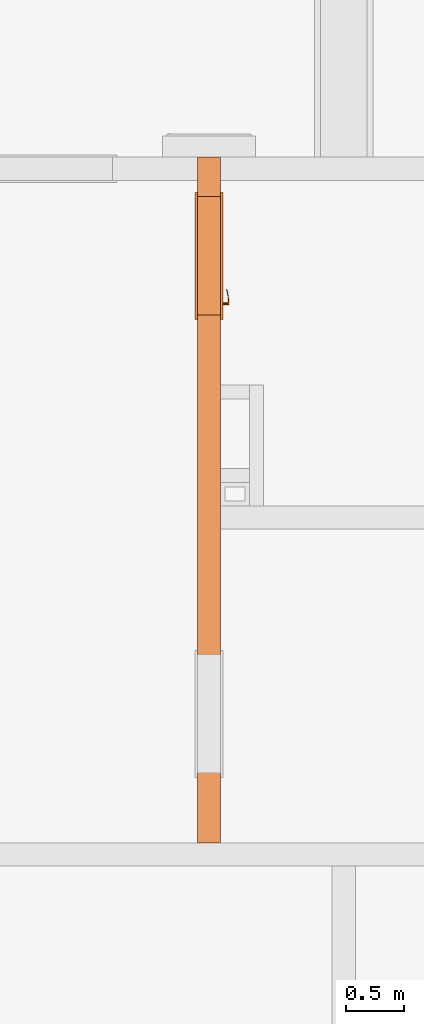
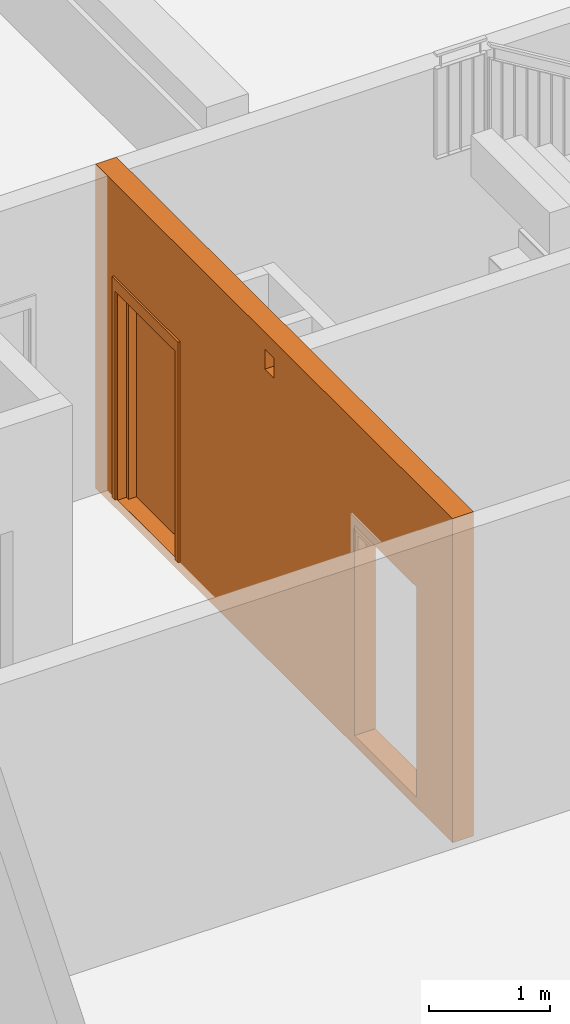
# One storey, part 17 of 25: 2 proxies, 3 openings.
"""IFC2X3 building model written with IfcOpenShell, lengths in millimetres."""

from ifc_helpers import new_model, entity, si_unit, converted_unit, derived_unit, money_unit, direction, frame, origin_with_axes, origin_2d_with_axis, place, context, subcontext, project, spatial, rectangle, extrude, open_shell, faceted_brep, surface_model, source, transform, mapped, material, type_object, element, fill, save


model = new_model("IFC2X3")

# Units and contexts
model_context = context("Model", 3, precision=0.01, world=origin_with_axes(), true_north=direction((0.34421633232, 0.938890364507)))
body_context = subcontext(model_context, "Body", "Model", "MODEL_VIEW")
ifc_project = project(units=[si_unit("LENGTHUNIT", "METRE", prefix="MILLI"), si_unit("AREAUNIT", "SQUARE_METRE"), si_unit("VOLUMEUNIT", "CUBIC_METRE"), converted_unit("PLANEANGLEUNIT", "DEGREE", entity("IfcPlaneAngleMeasure", 0.0174532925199), si_unit("PLANEANGLEUNIT", "RADIAN"), dimensions=[0, 0, 0, 0, 0, 0, 0]), si_unit("SOLIDANGLEUNIT", "STERADIAN"), money_unit("USD"), converted_unit("TIMEUNIT", "Year", entity("IfcTimeMeasure", 31556926.0), si_unit("TIMEUNIT", "SECOND"), dimensions=[0, 0, 1, 0, 0, 0, 0]), si_unit("MASSUNIT", "GRAM", prefix="KILO"), si_unit("THERMODYNAMICTEMPERATUREUNIT", "DEGREE_CELSIUS"), si_unit("LUMINOUSINTENSITYUNIT", "LUMEN"), si_unit("ENERGYUNIT", "JOULE", prefix="MEGA"), derived_unit("THERMALCONDUCTANCEUNIT", [(si_unit("POWERUNIT", "WATT"), 1), (si_unit("LENGTHUNIT", "METRE"), -1), (si_unit("THERMODYNAMICTEMPERATUREUNIT", "KELVIN"), -1)]), derived_unit("SPECIFICHEATCAPACITYUNIT", [(si_unit("ENERGYUNIT", "JOULE"), 1), (si_unit("MASSUNIT", "GRAM", prefix="KILO"), -1), (si_unit("THERMODYNAMICTEMPERATUREUNIT", "KELVIN"), -1)]), derived_unit("MASSDENSITYUNIT", [(si_unit("MASSUNIT", "GRAM", prefix="KILO"), 1), (si_unit("VOLUMEUNIT", "CUBIC_METRE"), -1)])], contexts=[model_context])

# Site, building, storey
site_placement = place(None, origin_with_axes())
site = spatial("IfcSite", under=ifc_project, at=site_placement, Name="USTRONIE MORSKIE", CompositionType="ELEMENT")
building_placement = place(site_placement, origin_with_axes())
building = spatial("IfcBuilding", under=site, at=building_placement, Name="Budynek", CompositionType="ELEMENT")
storey_placement = place(building_placement, frame((0.0, 0.0, -3600.0), z_axis=(0.0, 0.0, 1.0), x_axis=(1.0, 0.0, 0.0)))
storey = spatial("IfcBuildingStorey", under=building, at=storey_placement, Name="GARAZ", CompositionType="ELEMENT", Elevation=-3600.0)

# Proxies, openings
ifc_material = material(Name="Beton konstrukcyjny 01")
building_element_proxy_type_1 = type_object("IfcBuildingElementProxyType", Name="Beton konstrukcyjny 01 200", PredefinedType="NOTDEFINED")
proxy_1_placement = place(storey_placement, frame((389657.920919, 726901.199036, -100.0), z_axis=(0.0, 0.0, 1.0), x_axis=(0.0, 1.0, 0.0)))
proxy_1 = element("IfcBuildingElementProxy", 1, at=proxy_1_placement, inside=storey, type_object=building_element_proxy_type_1, material=ifc_material, Name="SW-01", context=body_context, shape_type="Brep", body=[
    faceted_brep([(6000.0, -100.0, 3270.0), (6000.0, 100.0, 3270.0), (100.0, 100.0, 3270.0), (100.0, -100.0, 3270.0), (6000.0, -100.0, 0.0), (6000.0, 100.0, 0.0), (100.0, 100.0, 0.0), (100.0, -100.0, 0.0)], [[[0, 1, 2, 3]], [[1, 0, 4, 5]], [[1, 5, 6, 2]], [[7, 3, 2, 6]], [[4, 0, 3, 7]], [[5, 4, 7, 6]]]),
])
opening_1_placement = place(proxy_1_placement, frame((3125.0, 0.0, 2900.0), z_axis=(0.0, 0.0, 1.0), x_axis=(1.0, 0.0, 0.0)))
element("IfcOpeningElement", 2, at=opening_1_placement, cuts=proxy_1, Name="Wz.04", context=body_context, shape_type="SweptSolid", body=[
    extrude(rectangle(XDim=150.0, YDim=200.0, at=origin_2d_with_axis()), frame((0.0, 100.0, 100.0), z_axis=(0.0, -1.0, 0.0), x_axis=(1.0, 0.0, 0.0)), (0.0, 0.0, -1.0), 200.0),
    extrude(rectangle(XDim=150.0, YDim=200.0, at=origin_2d_with_axis()), frame((0.0, 100.0, 100.0), z_axis=(0.0, 1.0, 0.0), x_axis=(1.0, 0.0, 0.0)), (0.0, 0.0, -1.0), 200.0),
])
opening_2_placement = place(proxy_1_placement, frame((5150.0, 0.0, 100.0), z_axis=(0.0, 0.0, 1.0), x_axis=(1.0, 0.0, 0.0)))
opening_2 = element("IfcOpeningElement", 3, at=opening_2_placement, cuts=proxy_1, Name="Dw03", context=body_context, shape_type="SweptSolid", body=[
    extrude(rectangle(XDim=1020.0, YDim=2120.0, at=origin_2d_with_axis()), frame((0.0, 200.0, 1060.0), z_axis=(0.0, 1.0, 0.0), x_axis=(1.0, 0.0, 0.0)), (0.0, 0.0, -1.0), 600.0),
    extrude(rectangle(XDim=1094.0, YDim=2227.0, at=origin_2d_with_axis()), frame((0.0, 100.0, 1113.5), z_axis=(0.0, 1.0, 0.0), x_axis=(1.0, 0.0, 0.0)), (0.0, 0.0, 1.0), 200.0),
    extrude(rectangle(XDim=1094.0, YDim=2227.0, at=origin_2d_with_axis()), frame((0.0, -100.0, 1113.5), z_axis=(0.0, -1.0, 0.0), x_axis=(1.0, 0.0, 0.0)), (0.0, 0.0, 1.0), 200.0),
])
opening_3_placement = place(proxy_1_placement, frame((1210.0, 0.0, 100.0), z_axis=(0.0, 0.0, 1.0), x_axis=(1.0, 0.0, 0.0)))
element("IfcOpeningElement", 4, at=opening_3_placement, cuts=proxy_1, Name="Dw02", context=body_context, shape_type="SweptSolid", body=[
    extrude(rectangle(XDim=1020.0, YDim=2120.0, at=origin_2d_with_axis()), frame((0.0, -200.0, 1060.0), z_axis=(0.0, 1.0, 0.0), x_axis=(-1.0, 0.0, 0.0)), (0.0, 0.0, 1.0), 600.0),
    extrude(rectangle(XDim=1094.0, YDim=2227.0, at=origin_2d_with_axis()), frame((0.0, -100.0, 1113.5), z_axis=(0.0, 1.0, 0.0), x_axis=(-1.0, 0.0, 0.0)), (0.0, 0.0, -1.0), 200.0),
    extrude(rectangle(XDim=1094.0, YDim=2227.0, at=origin_2d_with_axis()), frame((0.0, 100.0, 1113.5), z_axis=(0.0, -1.0, 0.0), x_axis=(-1.0, 0.0, 0.0)), (0.0, 0.0, -1.0), 200.0),
])
building_element_proxy_type_2 = type_object("IfcBuildingElementProxyType", Name="Drzwi 23", PredefinedType="NOTDEFINED")
shared_shape = source(origin_with_axes(), body_context, "Body", "SurfaceModel", [
    faceted_brep([(510.0, -115.0, 0.0), (510.0, -200.0, 0.0), (485.0, -200.0, 0.0), (485.0, -115.0, 0.0), (510.0, -115.0, 2120.0), (510.0, -200.0, 2120.0), (485.0, -200.0, 2095.0), (485.0, -115.0, 2095.0)], [[[0, 1, 2, 3]], [[4, 5, 1, 0]], [[1, 5, 6, 2]], [[3, 2, 6, 7]], [[0, 3, 7, 4]], [[7, 6, 5, 4]]]),
    faceted_brep([(-510.0, -115.0, 2120.0), (-510.0, -200.0, 2120.0), (-485.0, -200.0, 2095.0), (-485.0, -115.0, 2095.0), (-510.0, -115.0, 0.0), (-510.0, -200.0, 0.0), (-485.0, -200.0, 0.0), (-485.0, -115.0, 0.0)], [[[0, 1, 2, 3]], [[4, 5, 1, 0]], [[1, 5, 6, 2]], [[3, 2, 6, 7]], [[0, 3, 7, 4]], [[7, 6, 5, 4]]]),
    faceted_brep([(485.0, -115.0, 2095.0), (485.0, -200.0, 2095.0), (-485.0, -200.0, 2095.0), (-485.0, -115.0, 2095.0), (510.0, -115.0, 2120.0), (510.0, -200.0, 2120.0), (-510.0, -200.0, 2120.0), (-510.0, -115.0, 2120.0)], [[[0, 1, 2, 3]], [[4, 5, 1, 0]], [[1, 5, 6, 2]], [[3, 2, 6, 7]], [[0, 3, 7, 4]], [[7, 6, 5, 4]]]),
    faceted_brep([(547.0, -219.0, 0.0), (497.0, -219.0, 0.0), (497.0, -200.0, 0.0), (547.0, -200.0, 0.0), (547.0, -219.0, 2227.0), (497.0, -219.0, 2107.0), (497.0, -200.0, 2107.0), (547.0, -200.0, 2227.0)], [[[0, 1, 2, 3]], [[0, 4, 5, 1]], [[1, 5, 6, 2]], [[3, 2, 6, 7]], [[4, 0, 3, 7]], [[5, 4, 7, 6]]]),
    faceted_brep([(-547.0, -219.0, 2227.0), (-497.0, -219.0, 2107.0), (-497.0, -200.0, 2107.0), (-547.0, -200.0, 2227.0), (-547.0, -219.0, 0.0), (-497.0, -219.0, 0.0), (-497.0, -200.0, 0.0), (-547.0, -200.0, 0.0)], [[[0, 1, 2, 3]], [[0, 4, 5, 1]], [[1, 5, 6, 2]], [[3, 2, 6, 7]], [[4, 0, 3, 7]], [[5, 4, 7, 6]]]),
    faceted_brep([(547.0, -219.0, 2227.0), (497.0, -219.0, 2107.0), (497.0, -200.0, 2107.0), (547.0, -200.0, 2227.0), (-547.0, -219.0, 2227.0), (-497.0, -219.0, 2107.0), (-497.0, -200.0, 2107.0), (-547.0, -200.0, 2227.0)], [[[0, 1, 2, 3]], [[0, 4, 5, 1]], [[1, 5, 6, 2]], [[3, 2, 6, 7]], [[4, 0, 3, 7]], [[5, 4, 7, 6]]]),
    faceted_brep([(547.0, 19.0, 0.0), (547.0, 0.0, 0.0), (497.0, 0.0, 0.0), (497.0, 19.0, 0.0), (547.0, 19.0, 2227.0), (547.0, 0.0, 2227.0), (497.0, 0.0, 2107.0), (497.0, 19.0, 2107.0)], [[[0, 1, 2, 3]], [[4, 5, 1, 0]], [[1, 5, 6, 2]], [[3, 2, 6, 7]], [[0, 3, 7, 4]], [[7, 6, 5, 4]]]),
    faceted_brep([(-547.0, 19.0, 2227.0), (-547.0, 0.0, 2227.0), (-497.0, 0.0, 2107.0), (-497.0, 19.0, 2107.0), (-547.0, 19.0, 0.0), (-547.0, 0.0, 0.0), (-497.0, 0.0, 0.0), (-497.0, 19.0, 0.0)], [[[0, 1, 2, 3]], [[4, 5, 1, 0]], [[1, 5, 6, 2]], [[3, 2, 6, 7]], [[0, 3, 7, 4]], [[7, 6, 5, 4]]]),
    faceted_brep([(547.0, 19.0, 2227.0), (547.0, 0.0, 2227.0), (497.0, 0.0, 2107.0), (497.0, 19.0, 2107.0), (-547.0, 19.0, 2227.0), (-547.0, 0.0, 2227.0), (-497.0, 0.0, 2107.0), (-497.0, 19.0, 2107.0)], [[[0, 1, 2, 3]], [[4, 5, 1, 0]], [[1, 5, 6, 2]], [[3, 2, 6, 7]], [[0, 3, 7, 4]], [[7, 6, 5, 4]]]),
    faceted_brep([(450.0, -40.0, 0.0), (450.0, -115.0, 0.0), (450.0, -115.0, 2050.0), (450.0, -40.0, 2050.0), (462.0, -40.0, 0.0), (462.0, 0.0, 0.0), (510.0, 0.0, 0.0), (510.0, -115.0, 0.0), (510.0, -115.0, 2050.0), (462.0, -40.0, 2050.0), (510.0, 0.0, 2050.0), (462.0, 0.0, 2050.0)], [[[0, 1, 2, 3]], [[4, 5, 6, 7, 1, 0]], [[1, 7, 8, 2]], [[9, 3, 2, 8, 10, 11]], [[9, 4, 0, 3]], [[11, 5, 4, 9]], [[11, 10, 6, 5]], [[6, 10, 8, 7]]]),
    faceted_brep([(-462.0, -40.0, 2050.0), (-462.0, 0.0, 2050.0), (-510.0, 0.0, 2050.0), (-510.0, -115.0, 2050.0), (-450.0, -115.0, 2050.0), (-450.0, -40.0, 2050.0), (-462.0, -40.0, 0.0), (-462.0, 0.0, 0.0), (-510.0, 0.0, 0.0), (-510.0, -115.0, 0.0), (-450.0, -115.0, 0.0), (-450.0, -40.0, 0.0)], [[[0, 1, 2, 3, 4, 5]], [[0, 6, 7, 1]], [[7, 8, 2, 1]], [[2, 8, 9, 3]], [[3, 9, 10, 4]], [[5, 4, 10, 11]], [[5, 11, 6, 0]], [[6, 11, 10, 9, 8, 7]]]),
    faceted_brep([(462.0, 0.0, 2062.0), (-462.0, 0.0, 2062.0), (-462.0, 0.0, 2050.0), (-510.0, 0.0, 2050.0), (-510.0, 0.0, 2120.0), (510.0, 0.0, 2120.0), (510.0, 0.0, 2050.0), (462.0, 0.0, 2050.0), (462.0, -40.0, 2062.0), (-462.0, -40.0, 2062.0), (-462.0, -40.0, 2050.0), (-450.0, -40.0, 2050.0), (-450.0, -115.0, 2050.0), (-510.0, -115.0, 2050.0), (-510.0, -115.0, 2120.0), (510.0, -115.0, 2120.0), (510.0, -115.0, 2050.0), (462.0, -40.0, 2050.0), (450.0, -115.0, 2050.0), (450.0, -40.0, 2050.0)], [[[0, 1, 2, 3, 4, 5, 6, 7]], [[0, 8, 9, 1]], [[1, 9, 10, 2]], [[10, 11, 12, 13, 3, 2]], [[4, 3, 13, 14]], [[5, 4, 14, 15]], [[6, 5, 15, 16]], [[17, 7, 6, 16, 18, 19]], [[7, 17, 8, 0]], [[10, 9, 8, 17, 19, 11]], [[19, 18, 12, 11]], [[12, 18, 16, 15, 14, 13]]]),
    faceted_brep([(440.5, -40.0, 1060.0), (383.5, -40.0, 1060.0), (383.5, -43.0, 1060.0), (440.5, -43.0, 1060.0), (440.5, -40.0, 870.0), (383.5, -40.0, 870.0), (383.5, -43.0, 870.0), (440.5, -43.0, 870.0)], [[[0, 1, 2, 3]], [[0, 4, 5, 1]], [[1, 5, 6, 2]], [[3, 2, 6, 7]], [[4, 0, 3, 7]], [[5, 4, 7, 6]]]),
    faceted_brep([(412.0, -104.0, 990.0), (417.0, -104.0, 991.339745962), (417.0, -111.0, 991.339745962), (412.0, -111.0, 990.0), (387.0, -104.0, 990.0), (387.0, -104.0, 1010.0), (412.0, -104.0, 1010.0), (417.0, -104.0, 1008.66025404), (420.660254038, -104.0, 1005.0), (422.0, -104.0, 1000.0), (420.660254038, -104.0, 995.0), (420.660254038, -111.0, 995.0), (422.0, -111.0, 1000.0), (420.660254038, -111.0, 1005.0), (417.0, -111.0, 1008.66025404), (412.0, -111.0, 1010.0), (387.0, -111.0, 1010.0), (387.0, -111.0, 990.0)], [[[0, 1, 2, 3]], [[0, 4, 5, 6, 7, 8, 9, 10, 1]], [[1, 10, 11, 2]], [[3, 2, 11, 12, 13, 14, 15, 16, 17]], [[4, 0, 3, 17]], [[5, 4, 17, 16]], [[6, 5, 16, 15]], [[7, 6, 15, 14]], [[8, 7, 14, 13]], [[9, 8, 13, 12]], [[10, 9, 12, 11]]]),
    surface_model("IfcShellBasedSurfaceModel", [(387.0, -104.0, 1010.0), (373.901717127, -104.0, 1009.60730092), (373.596090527, -111.0, 1009.60730092), (387.0, -104.0, 990.0), (373.901717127, -104.0, 990.392699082), (346.890283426, -108.663544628, 1008.82190275), (387.0, -111.0, 1010.0), (387.0, -111.0, 990.0), (347.804837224, -101.716818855, 991.178097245), (347.804837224, -101.716818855, 1008.82190275), (346.890283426, -108.663544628, 991.178097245), (373.596090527, -111.0, 990.392699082), (322.006256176, -97.1678329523, 991.963495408), (322.006256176, -97.1678329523, 1008.03650459), (320.489735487, -104.008415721, 1008.03650459), (320.489735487, -104.008415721, 991.963495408), (296.702316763, -90.3876628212, 992.748893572), (296.702316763, -90.3876628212, 1007.25110643), (294.59537082, -97.0700416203, 1007.25110643), (294.59537082, -97.0700416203, 992.748893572), (288.829442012, -87.5221707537, 993.0), (288.829442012, -87.5221707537, 1007.0), (286.538795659, -94.1376880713, 1007.0), (286.538795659, -94.1376880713, 993.0)], [open_shell([[[0, 1, 2]], [[0, 3, 4, 1]], [[1, 5, 2]], [[0, 2, 6]], [[4, 3, 7]], [[1, 4, 8, 9]], [[1, 9, 5]], [[2, 5, 10, 11]], [[6, 2, 11, 7]], [[4, 7, 11]], [[8, 4, 11]], [[9, 8, 12, 13]], [[9, 14, 5]], [[5, 14, 15, 10]], [[8, 11, 10]], [[12, 8, 10]], [[13, 12, 16, 17]], [[9, 13, 14]], [[14, 18, 19, 15]], [[12, 10, 15]], [[16, 12, 15]], [[17, 16, 20, 21]], [[13, 17, 18]], [[13, 18, 14]], [[18, 22, 23, 19]], [[16, 15, 19]], [[20, 16, 19]], [[21, 20, 23, 22]], [[17, 21, 22]], [[17, 22, 18]], [[20, 19, 23]]])]),
    faceted_brep([(401.607695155, -53.0, 994.0), (400.0, -53.0, 1000.0), (399.0, -43.0, 1000.0), (400.741669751, -43.0, 993.5), (406.0, -53.0, 989.607695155), (412.0, -53.0, 988.0), (418.0, -53.0, 989.607695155), (422.392304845, -53.0, 994.0), (424.0, -53.0, 1000.0), (422.392304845, -53.0, 1006.0), (418.0, -53.0, 1010.39230485), (412.0, -53.0, 1012.0), (406.0, -53.0, 1010.39230485), (401.607695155, -53.0, 1006.0), (400.741669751, -43.0, 1006.5), (405.5, -43.0, 1011.25833025), (412.0, -43.0, 1013.0), (418.5, -43.0, 1011.25833025), (423.258330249, -43.0, 1006.5), (425.0, -43.0, 1000.0), (423.258330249, -43.0, 993.5), (418.5, -43.0, 988.741669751), (412.0, -43.0, 987.0), (405.5, -43.0, 988.741669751)], [[[0, 1, 2, 3]], [[1, 0, 4, 5, 6, 7, 8, 9, 10, 11, 12, 13]], [[1, 13, 14, 2]], [[2, 14, 15, 16, 17, 18, 19, 20, 21, 22, 23, 3]], [[4, 0, 3, 23]], [[5, 4, 23, 22]], [[6, 5, 22, 21]], [[7, 6, 21, 20]], [[8, 7, 20, 19]], [[9, 8, 19, 18]], [[10, 9, 18, 17]], [[11, 10, 17, 16]], [[12, 11, 16, 15]], [[13, 12, 15, 14]]]),
    faceted_brep([(394.679491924, -47.0, 895.0), (392.0, -47.0, 905.0), (390.0, -43.0, 905.0), (392.947441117, -43.0, 894.0), (402.0, -47.0, 887.679491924), (412.0, -47.0, 885.0), (422.0, -47.0, 887.679491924), (429.320508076, -47.0, 895.0), (432.0, -47.0, 905.0), (429.320508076, -47.0, 915.0), (422.0, -47.0, 922.320508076), (412.0, -47.0, 925.0), (402.0, -47.0, 922.320508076), (394.679491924, -47.0, 915.0), (392.947441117, -43.0, 916.0), (401.0, -43.0, 924.052558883), (412.0, -43.0, 927.0), (423.0, -43.0, 924.052558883), (431.052558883, -43.0, 916.0), (434.0, -43.0, 905.0), (431.052558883, -43.0, 894.0), (423.0, -43.0, 885.947441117), (412.0, -43.0, 883.0), (401.0, -43.0, 885.947441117)], [[[0, 1, 2, 3]], [[1, 0, 4, 5, 6, 7, 8, 9, 10, 11, 12, 13]], [[1, 13, 14, 2]], [[2, 14, 15, 16, 17, 18, 19, 20, 21, 22, 23, 3]], [[4, 0, 3, 23]], [[5, 4, 23, 22]], [[6, 5, 22, 21]], [[7, 6, 21, 20]], [[8, 7, 20, 19]], [[9, 8, 19, 18]], [[10, 9, 18, 17]], [[11, 10, 17, 16]], [[12, 11, 16, 15]], [[13, 12, 15, 14]]]),
    faceted_brep([(407.050252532, -49.0, 909.050252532), (405.0, -49.0, 914.0), (404.0, -47.0, 914.0), (406.343145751, -47.0, 908.343145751), (412.0, -49.0, 907.0), (416.949747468, -49.0, 909.050252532), (419.0, -49.0, 914.0), (416.949747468, -49.0, 918.949747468), (412.0, -49.0, 921.0), (407.050252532, -49.0, 918.949747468), (406.343145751, -47.0, 919.656854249), (412.0, -47.0, 922.0), (417.656854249, -47.0, 919.656854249), (420.0, -47.0, 914.0), (417.656854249, -47.0, 908.343145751), (412.0, -47.0, 906.0)], [[[0, 1, 2, 3]], [[1, 0, 4, 5, 6, 7, 8, 9]], [[1, 9, 10, 2]], [[2, 10, 11, 12, 13, 14, 15, 3]], [[4, 0, 3, 15]], [[5, 4, 15, 14]], [[6, 5, 14, 13]], [[7, 6, 13, 12]], [[8, 7, 12, 11]], [[9, 8, 11, 10]]]),
    faceted_brep([(412.0, -53.0, 1010.0), (407.0, -53.0, 1008.66025404), (407.0, -104.0, 1008.66025404), (412.0, -104.0, 1010.0), (417.0, -53.0, 1008.66025404), (420.660254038, -53.0, 1005.0), (422.0, -53.0, 1000.0), (420.660254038, -53.0, 995.0), (417.0, -53.0, 991.339745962), (412.0, -53.0, 990.0), (407.0, -53.0, 991.339745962), (403.339745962, -53.0, 995.0), (402.0, -53.0, 1000.0), (403.339745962, -53.0, 1005.0), (403.339745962, -104.0, 1005.0), (402.0, -104.0, 1000.0), (403.339745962, -104.0, 995.0), (407.0, -104.0, 991.339745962), (412.0, -104.0, 990.0), (417.0, -104.0, 991.339745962), (420.660254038, -104.0, 995.0), (422.0, -104.0, 1000.0), (420.660254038, -104.0, 1005.0), (417.0, -104.0, 1008.66025404)], [[[0, 1, 2, 3]], [[0, 4, 5, 6, 7, 8, 9, 10, 11, 12, 13, 1]], [[1, 13, 14, 2]], [[3, 2, 14, 15, 16, 17, 18, 19, 20, 21, 22, 23]], [[4, 0, 3, 23]], [[5, 4, 23, 22]], [[6, 5, 22, 21]], [[7, 6, 21, 20]], [[8, 7, 20, 19]], [[9, 8, 19, 18]], [[10, 9, 18, 17]], [[11, 10, 17, 16]], [[12, 11, 16, 15]], [[13, 12, 15, 14]]]),
    faceted_brep([(440.5, 0.0, 1060.0), (440.5, 3.0, 1060.0), (383.5, 3.0, 1060.0), (383.5, 0.0, 1060.0), (440.5, 0.0, 870.0), (440.5, 3.0, 870.0), (383.5, 3.0, 870.0), (383.5, 0.0, 870.0)], [[[0, 1, 2, 3]], [[4, 5, 1, 0]], [[1, 5, 6, 2]], [[3, 2, 6, 7]], [[0, 3, 7, 4]], [[7, 6, 5, 4]]]),
    faceted_brep([(412.0, 64.0, 990.0), (412.0, 71.0, 990.0), (417.0, 71.0, 991.339745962), (417.0, 64.0, 991.339745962), (387.0, 64.0, 990.0), (387.0, 71.0, 990.0), (387.0, 71.0, 1010.0), (412.0, 71.0, 1010.0), (417.0, 71.0, 1008.66025404), (420.660254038, 71.0, 1005.0), (422.0, 71.0, 1000.0), (420.660254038, 71.0, 995.0), (420.660254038, 64.0, 995.0), (422.0, 64.0, 1000.0), (420.660254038, 64.0, 1005.0), (417.0, 64.0, 1008.66025404), (412.0, 64.0, 1010.0), (387.0, 64.0, 1010.0)], [[[0, 1, 2, 3]], [[4, 5, 1, 0]], [[1, 5, 6, 7, 8, 9, 10, 11, 2]], [[3, 2, 11, 12]], [[0, 3, 12, 13, 14, 15, 16, 17, 4]], [[17, 6, 5, 4]], [[16, 7, 6, 17]], [[15, 8, 7, 16]], [[14, 9, 8, 15]], [[13, 10, 9, 14]], [[12, 11, 10, 13]]]),
    surface_model("IfcShellBasedSurfaceModel", [(387.0, 64.0, 1010.0), (373.596090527, 71.0, 1009.60730092), (373.901717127, 64.0, 1009.60730092), (387.0, 71.0, 1010.0), (346.890283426, 68.6635446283, 1008.82190275), (373.901717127, 64.0, 990.392699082), (387.0, 64.0, 990.0), (387.0, 71.0, 990.0), (373.596090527, 71.0, 990.392699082), (346.890283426, 68.6635446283, 991.178097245), (347.804837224, 61.716818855, 1008.82190275), (347.804837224, 61.716818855, 991.178097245), (320.489735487, 64.0084157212, 991.963495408), (320.489735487, 64.0084157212, 1008.03650459), (322.006256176, 57.1678329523, 1008.03650459), (322.006256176, 57.1678329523, 991.963495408), (294.59537082, 57.0700416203, 992.748893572), (294.59537082, 57.0700416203, 1007.25110643), (296.702316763, 50.3876628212, 1007.25110643), (296.702316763, 50.3876628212, 992.748893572), (286.538795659, 54.1376880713, 993.0), (286.538795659, 54.1376880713, 1007.0), (288.829442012, 47.5221707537, 1007.0), (288.829442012, 47.5221707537, 993.0)], [open_shell([[[0, 1, 2]], [[0, 3, 1]], [[2, 1, 4]], [[0, 2, 5, 6]], [[3, 7, 8, 1]], [[1, 8, 9, 4]], [[2, 4, 10]], [[2, 10, 11, 5]], [[5, 7, 6]], [[5, 8, 7]], [[11, 9, 8]], [[4, 9, 12, 13]], [[10, 4, 13]], [[10, 14, 15, 11]], [[11, 8, 5]], [[15, 9, 11]], [[15, 12, 9]], [[13, 12, 16, 17]], [[10, 13, 14]], [[14, 18, 19, 15]], [[19, 12, 15]], [[19, 16, 12]], [[17, 16, 20, 21]], [[14, 13, 17]], [[14, 17, 18]], [[18, 22, 23, 19]], [[23, 16, 19]], [[23, 20, 16]], [[22, 21, 20, 23]], [[18, 17, 21]], [[18, 21, 22]]])]),
    faceted_brep([(401.607695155, 13.0, 994.0), (400.741669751, 3.0, 993.5), (399.0, 3.0, 1000.0), (400.0, 13.0, 1000.0), (406.0, 13.0, 989.607695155), (405.5, 3.0, 988.741669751), (412.0, 3.0, 987.0), (418.5, 3.0, 988.741669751), (423.258330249, 3.0, 993.5), (425.0, 3.0, 1000.0), (423.258330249, 3.0, 1006.5), (418.5, 3.0, 1011.25833025), (412.0, 3.0, 1013.0), (405.5, 3.0, 1011.25833025), (400.741669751, 3.0, 1006.5), (401.607695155, 13.0, 1006.0), (406.0, 13.0, 1010.39230485), (412.0, 13.0, 1012.0), (418.0, 13.0, 1010.39230485), (422.392304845, 13.0, 1006.0), (424.0, 13.0, 1000.0), (422.392304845, 13.0, 994.0), (418.0, 13.0, 989.607695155), (412.0, 13.0, 988.0)], [[[0, 1, 2, 3]], [[4, 5, 1, 0]], [[2, 1, 5, 6, 7, 8, 9, 10, 11, 12, 13, 14]], [[3, 2, 14, 15]], [[3, 15, 16, 17, 18, 19, 20, 21, 22, 23, 4, 0]], [[23, 6, 5, 4]], [[22, 7, 6, 23]], [[21, 8, 7, 22]], [[20, 9, 8, 21]], [[19, 10, 9, 20]], [[18, 11, 10, 19]], [[17, 12, 11, 18]], [[16, 13, 12, 17]], [[15, 14, 13, 16]]]),
    faceted_brep([(394.679491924, 7.0, 895.0), (392.947441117, 3.0, 894.0), (390.0, 3.0, 905.0), (392.0, 7.0, 905.0), (402.0, 7.0, 887.679491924), (401.0, 3.0, 885.947441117), (412.0, 3.0, 883.0), (423.0, 3.0, 885.947441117), (431.052558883, 3.0, 894.0), (434.0, 3.0, 905.0), (431.052558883, 3.0, 916.0), (423.0, 3.0, 924.052558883), (412.0, 3.0, 927.0), (401.0, 3.0, 924.052558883), (392.947441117, 3.0, 916.0), (394.679491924, 7.0, 915.0), (402.0, 7.0, 922.320508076), (412.0, 7.0, 925.0), (422.0, 7.0, 922.320508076), (429.320508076, 7.0, 915.0), (432.0, 7.0, 905.0), (429.320508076, 7.0, 895.0), (422.0, 7.0, 887.679491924), (412.0, 7.0, 885.0)], [[[0, 1, 2, 3]], [[4, 5, 1, 0]], [[2, 1, 5, 6, 7, 8, 9, 10, 11, 12, 13, 14]], [[3, 2, 14, 15]], [[3, 15, 16, 17, 18, 19, 20, 21, 22, 23, 4, 0]], [[23, 6, 5, 4]], [[22, 7, 6, 23]], [[21, 8, 7, 22]], [[20, 9, 8, 21]], [[19, 10, 9, 20]], [[18, 11, 10, 19]], [[17, 12, 11, 18]], [[16, 13, 12, 17]], [[15, 14, 13, 16]]]),
    faceted_brep([(407.050252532, 9.0, 909.050252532), (406.343145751, 7.0, 908.343145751), (404.0, 7.0, 914.0), (405.0, 9.0, 914.0), (412.0, 9.0, 907.0), (412.0, 7.0, 906.0), (417.656854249, 7.0, 908.343145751), (420.0, 7.0, 914.0), (417.656854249, 7.0, 919.656854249), (412.0, 7.0, 922.0), (406.343145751, 7.0, 919.656854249), (407.050252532, 9.0, 918.949747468), (412.0, 9.0, 921.0), (416.949747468, 9.0, 918.949747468), (419.0, 9.0, 914.0), (416.949747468, 9.0, 909.050252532)], [[[0, 1, 2, 3]], [[4, 5, 1, 0]], [[2, 1, 5, 6, 7, 8, 9, 10]], [[3, 2, 10, 11]], [[3, 11, 12, 13, 14, 15, 4, 0]], [[15, 6, 5, 4]], [[14, 7, 6, 15]], [[13, 8, 7, 14]], [[12, 9, 8, 13]], [[11, 10, 9, 12]]]),
    faceted_brep([(412.0, 13.0, 1010.0), (412.0, 64.0, 1010.0), (407.0, 64.0, 1008.66025404), (407.0, 13.0, 1008.66025404), (417.0, 13.0, 1008.66025404), (417.0, 64.0, 1008.66025404), (420.660254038, 64.0, 1005.0), (422.0, 64.0, 1000.0), (420.660254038, 64.0, 995.0), (417.0, 64.0, 991.339745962), (412.0, 64.0, 990.0), (407.0, 64.0, 991.339745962), (403.339745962, 64.0, 995.0), (402.0, 64.0, 1000.0), (403.339745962, 64.0, 1005.0), (403.339745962, 13.0, 1005.0), (402.0, 13.0, 1000.0), (403.339745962, 13.0, 995.0), (407.0, 13.0, 991.339745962), (412.0, 13.0, 990.0), (417.0, 13.0, 991.339745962), (420.660254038, 13.0, 995.0), (422.0, 13.0, 1000.0), (420.660254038, 13.0, 1005.0)], [[[0, 1, 2, 3]], [[4, 5, 1, 0]], [[1, 5, 6, 7, 8, 9, 10, 11, 12, 13, 14, 2]], [[3, 2, 14, 15]], [[0, 3, 15, 16, 17, 18, 19, 20, 21, 22, 23, 4]], [[23, 6, 5, 4]], [[22, 7, 6, 23]], [[21, 8, 7, 22]], [[20, 9, 8, 21]], [[19, 10, 9, 20]], [[18, 11, 10, 19]], [[17, 12, 11, 18]], [[16, 13, 12, 17]], [[15, 14, 13, 16]]]),
    faceted_brep([(-462.0, 0.0, 0.0), (462.0, 0.0, 0.0), (462.0, -40.0, 0.0), (-462.0, -40.0, 0.0), (-462.0, 0.0, 2062.0), (462.0, 0.0, 2062.0), (462.0, -40.0, 2062.0), (-462.0, -40.0, 2062.0)], [[[0, 1, 2, 3]], [[0, 4, 5, 1]], [[1, 5, 6, 2]], [[3, 2, 6, 7]], [[4, 0, 3, 7]], [[5, 4, 7, 6]]]),
])
proxy_2_placement = place(opening_2_placement, frame((450.0, 0.0, 0.0), z_axis=(0.0, 0.0, 1.0), x_axis=(-1.0, 0.0, 0.0)))
proxy_2 = element("IfcBuildingElementProxy", 5, at=proxy_2_placement, inside=storey, type_object=building_element_proxy_type_2, Name="Dw03", context=body_context, shape_type="MappedRepresentation", body=[
    mapped(shared_shape, transform((450.0, 100.0, 0.0))),
])
fill(opening_2, proxy_2)

save(model, "model.ifc")
